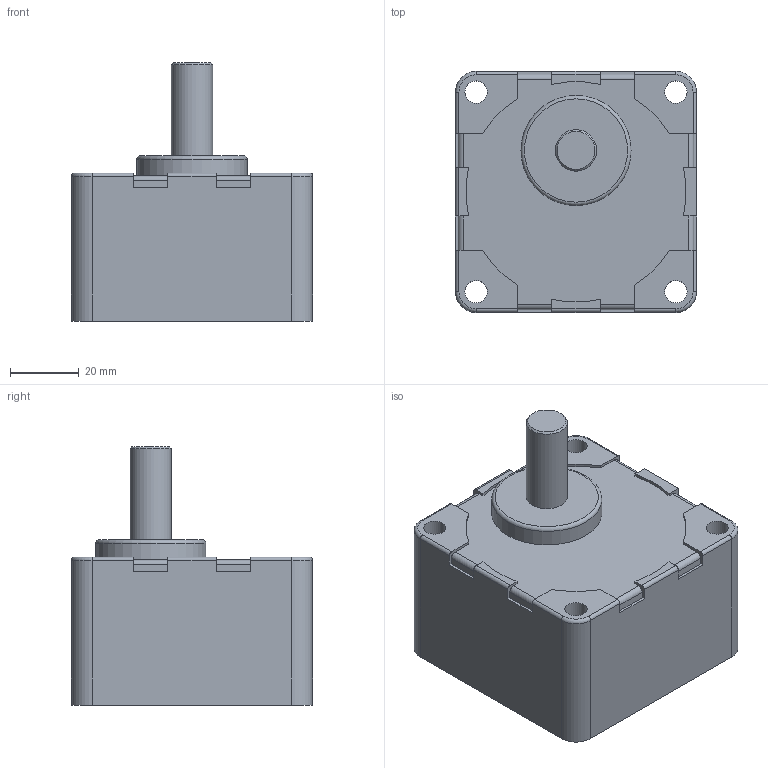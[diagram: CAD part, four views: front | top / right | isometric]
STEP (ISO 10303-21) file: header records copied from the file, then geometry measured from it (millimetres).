
FILE_DESCRIPTION(/* description */ (''),/* implementation_level */ '2;1');
FILE_NAME(/* name */ 'E:\도면작업\2016\0704) 미주향 SG 도면\3D GEAR HEAD\SG7SA5~120.stp',/* time_stamp */ '2016-07-22T14:02:17+09:00',/* author */ ('jy-jung'),/* organization */ (''),/* preprocessor_version */ 'ST-DEVELOPER v15.6',/* originating_system */ 'Autodesk Inventor 2015',/* authorisation */ '');
FILE_SCHEMA (('AUTOMOTIVE_DESIGN { 1 0 10303 214 3 1 1 }'));
Length unit declared in the file: millimetre
Products named in the file (1): SG7SA5~120
Bounding box: 70 x 70 x 75 mm (x, y, z)
Volume: 199666.2 mm3; surface area: 26940.5 mm2
Topology: 1 solids, 1 shells, 97 faces, 261 edges, 170 vertices
Faces by surface type: plane 50, cylinder 39, torus 5, cone 3
Full cylindrical faces by diameter (mm): 6.5 x4, 7.5 x1, 12 x1, 32 x1, 65 x1
Entity records: 3025 total; most frequent: DIRECTION 531, CARTESIAN_POINT 517, ORIENTED_EDGE 498, EDGE_CURVE 249, AXIS2_PLACEMENT_3D 184, VERTEX_POINT 170, LINE 163, VECTOR 163
